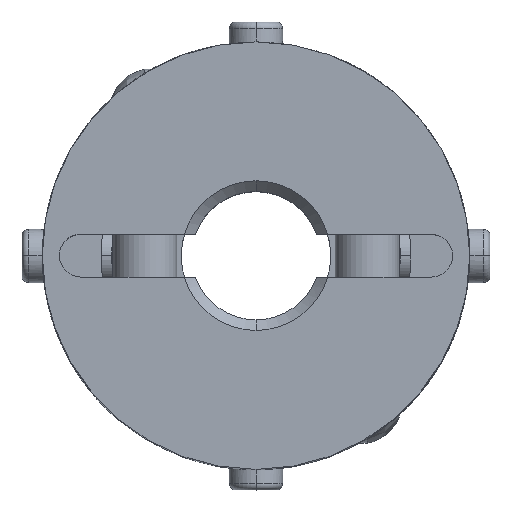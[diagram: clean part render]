
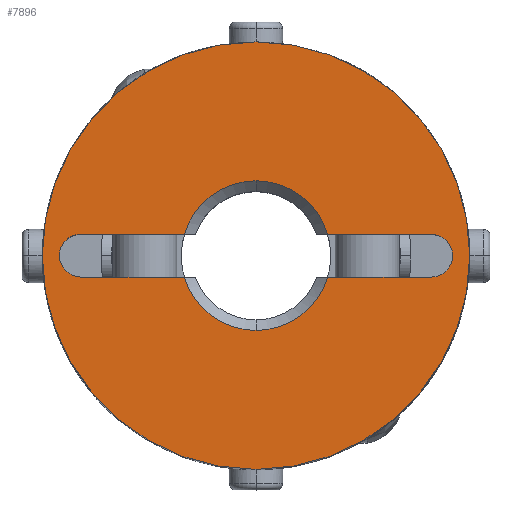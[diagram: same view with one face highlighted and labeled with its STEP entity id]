
A CAD part, top view. The second image highlights one B-rep face of the part: STEP entity #7896.
In plain terms, the highlighted planar face has unit normal (0, 0, 1).
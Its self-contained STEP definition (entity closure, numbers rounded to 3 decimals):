
#633=CARTESIAN_POINT('',(-8.907,-0.707,10.0));
#634=VERTEX_POINT('',#633);
#650=CARTESIAN_POINT('',(-8.2,1.,10.0));
#651=VERTEX_POINT('',#650);
#658=CARTESIAN_POINT('',(-8.2,0.,10.0));
#659=DIRECTION('',(0.0,0.0,1.0));
#660=DIRECTION('',(-0.707,0.707,0.0));
#661=AXIS2_PLACEMENT_3D('',#658,#659,#660);
#662=CIRCLE('',#661,1.);
#663=EDGE_CURVE('',#651,#634,#662,.T.);
#675=CARTESIAN_POINT('',(8.907,0.707,10.0));
#676=VERTEX_POINT('',#675);
#692=CARTESIAN_POINT('',(8.2,-1.,10.0));
#693=VERTEX_POINT('',#692);
#700=CARTESIAN_POINT('',(8.2,0.,10.0));
#701=DIRECTION('',(0.0,0.0,1.0));
#702=DIRECTION('',(0.707,-0.707,0.0));
#703=AXIS2_PLACEMENT_3D('',#700,#701,#702);
#704=CIRCLE('',#703,1.0);
#705=EDGE_CURVE('',#693,#676,#704,.T.);
#715=CARTESIAN_POINT('',(0.,-3.5,10.0));
#716=VERTEX_POINT('',#715);
#724=CARTESIAN_POINT('',(-3.354,-1.,10.0));
#725=VERTEX_POINT('',#724);
#739=CARTESIAN_POINT('',(0.,0.,10.0));
#740=DIRECTION('',(0.0,0.0,1.0));
#741=DIRECTION('',(0.0,-1.0,0.0));
#742=AXIS2_PLACEMENT_3D('',#739,#740,#741);
#743=CIRCLE('',#742,3.5);
#744=EDGE_CURVE('',#725,#716,#743,.T.);
#756=CARTESIAN_POINT('',(0.,3.5,10.0));
#757=VERTEX_POINT('',#756);
#773=CARTESIAN_POINT('',(3.354,1.,10.0));
#774=VERTEX_POINT('',#773);
#788=CARTESIAN_POINT('',(0.,0.,10.0));
#789=DIRECTION('',(0.0,0.0,1.0));
#790=DIRECTION('',(0.0,1.0,0.0));
#791=AXIS2_PLACEMENT_3D('',#788,#789,#790);
#792=CIRCLE('',#791,3.5);
#793=EDGE_CURVE('',#774,#757,#792,.T.);
#1385=CARTESIAN_POINT('',(0.,-10.0,10.0));
#1386=VERTEX_POINT('',#1385);
#1393=CARTESIAN_POINT('',(0.,10.0,10.0));
#1394=VERTEX_POINT('',#1393);
#1395=CARTESIAN_POINT('',(0.0,0.0,10.0));
#1396=DIRECTION('',(0.0,0.0,-1.0));
#1397=DIRECTION('',(0.0,1.0,0.0));
#1398=AXIS2_PLACEMENT_3D('',#1395,#1396,#1397);
#1399=CIRCLE('',#1398,10.0);
#1400=EDGE_CURVE('',#1386,#1394,#1399,.T.);
#7203=CARTESIAN_POINT('',(0.0,0.0,10.0));
#7204=DIRECTION('',(0.0,0.0,-1.0));
#7205=DIRECTION('',(0.0,1.0,0.0));
#7206=AXIS2_PLACEMENT_3D('',#7203,#7204,#7205);
#7207=CIRCLE('',#7206,10.0);
#7208=EDGE_CURVE('',#1394,#1386,#7207,.T.);
#7692=CARTESIAN_POINT('',(3.354,-1.,10.0));
#7693=VERTEX_POINT('',#7692);
#7707=CARTESIAN_POINT('',(8.2,-1.,10.0));
#7708=DIRECTION('',(-1.0,0.0,0.0));
#7709=VECTOR('',#7708,4.846);
#7710=LINE('',#7707,#7709);
#7711=EDGE_CURVE('',#693,#7693,#7710,.T.);
#7770=CARTESIAN_POINT('',(8.2,1.,10.0));
#7771=VERTEX_POINT('',#7770);
#7778=CARTESIAN_POINT('',(3.354,1.,10.0));
#7779=DIRECTION('',(1.0,0.0,0.0));
#7780=VECTOR('',#7779,4.846);
#7781=LINE('',#7778,#7780);
#7782=EDGE_CURVE('',#774,#7771,#7781,.T.);
#7799=CARTESIAN_POINT('',(-3.354,1.,10.0));
#7800=VERTEX_POINT('',#7799);
#7801=CARTESIAN_POINT('',(0.,0.,10.0));
#7802=DIRECTION('',(0.0,0.0,1.0));
#7803=DIRECTION('',(0.0,1.0,0.0));
#7804=AXIS2_PLACEMENT_3D('',#7801,#7802,#7803);
#7805=CIRCLE('',#7804,3.5);
#7806=EDGE_CURVE('',#757,#7800,#7805,.T.);
#7833=CARTESIAN_POINT('',(-8.2,1.,10.0));
#7834=DIRECTION('',(1.0,0.0,0.0));
#7835=VECTOR('',#7834,4.846);
#7836=LINE('',#7833,#7835);
#7837=EDGE_CURVE('',#651,#7800,#7836,.T.);
#7848=CARTESIAN_POINT('',(0.,0.909,10.0));
#7849=DIRECTION('',(0.0,0.0,1.0));
#7850=DIRECTION('',(0.0,1.0,0.0));
#7851=AXIS2_PLACEMENT_3D('',#7848,#7849,#7850);
#7852=PLANE('',#7851);
#7853=ORIENTED_EDGE('',*,*,#7208,.F.);
#7854=ORIENTED_EDGE('',*,*,#1400,.F.);
#7855=EDGE_LOOP('',(#7853,#7854));
#7856=FACE_OUTER_BOUND('',#7855,.T.);
#7857=ORIENTED_EDGE('',*,*,#793,.F.);
#7858=ORIENTED_EDGE('',*,*,#7782,.T.);
#7859=CARTESIAN_POINT('',(8.2,0.,10.0));
#7860=DIRECTION('',(0.0,0.0,1.0));
#7861=DIRECTION('',(0.707,-0.707,0.0));
#7862=AXIS2_PLACEMENT_3D('',#7859,#7860,#7861);
#7863=CIRCLE('',#7862,1.0);
#7864=EDGE_CURVE('',#676,#7771,#7863,.T.);
#7865=ORIENTED_EDGE('',*,*,#7864,.F.);
#7866=ORIENTED_EDGE('',*,*,#705,.F.);
#7867=ORIENTED_EDGE('',*,*,#7711,.T.);
#7868=CARTESIAN_POINT('',(0.,0.,10.0));
#7869=DIRECTION('',(0.0,0.0,1.0));
#7870=DIRECTION('',(0.0,-1.0,0.0));
#7871=AXIS2_PLACEMENT_3D('',#7868,#7869,#7870);
#7872=CIRCLE('',#7871,3.5);
#7873=EDGE_CURVE('',#716,#7693,#7872,.T.);
#7874=ORIENTED_EDGE('',*,*,#7873,.F.);
#7875=ORIENTED_EDGE('',*,*,#744,.F.);
#7876=CARTESIAN_POINT('',(-8.2,-1.,10.0));
#7877=VERTEX_POINT('',#7876);
#7878=CARTESIAN_POINT('',(-3.354,-1.,10.0));
#7879=DIRECTION('',(-1.0,0.0,0.0));
#7880=VECTOR('',#7879,4.846);
#7881=LINE('',#7878,#7880);
#7882=EDGE_CURVE('',#725,#7877,#7881,.T.);
#7883=ORIENTED_EDGE('',*,*,#7882,.T.);
#7884=CARTESIAN_POINT('',(-8.2,0.,10.0));
#7885=DIRECTION('',(0.0,0.0,1.0));
#7886=DIRECTION('',(-0.707,0.707,0.0));
#7887=AXIS2_PLACEMENT_3D('',#7884,#7885,#7886);
#7888=CIRCLE('',#7887,1.);
#7889=EDGE_CURVE('',#634,#7877,#7888,.T.);
#7890=ORIENTED_EDGE('',*,*,#7889,.F.);
#7891=ORIENTED_EDGE('',*,*,#663,.F.);
#7892=ORIENTED_EDGE('',*,*,#7837,.T.);
#7893=ORIENTED_EDGE('',*,*,#7806,.F.);
#7894=EDGE_LOOP('',(#7857,#7858,#7865,#7866,#7867,#7874,#7875,#7883,#7890,#7891,#7892,#7893));
#7895=FACE_BOUND('',#7894,.T.);
#7896=ADVANCED_FACE('',(#7856,#7895),#7852,.T.);
